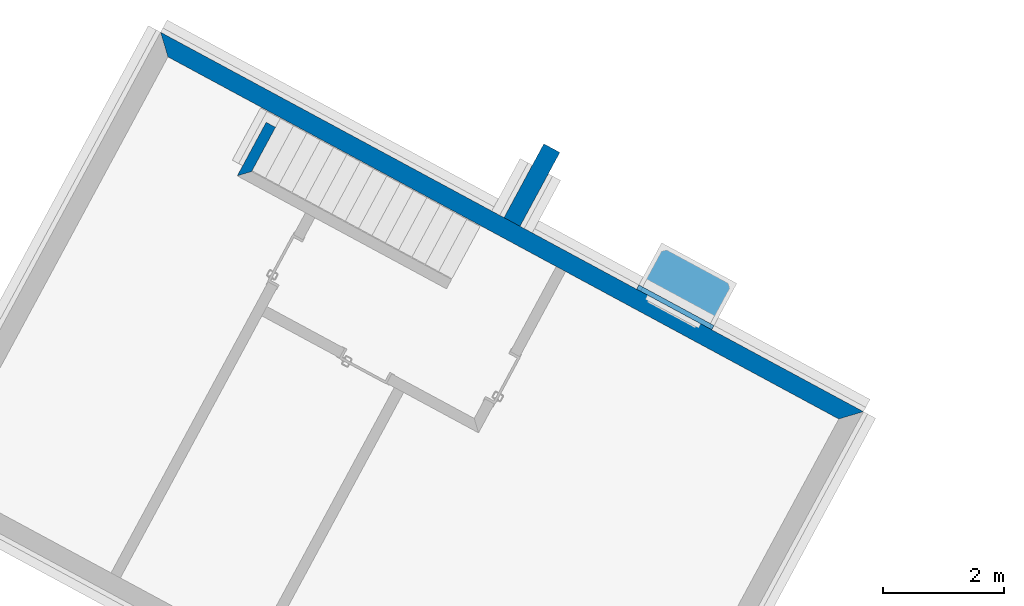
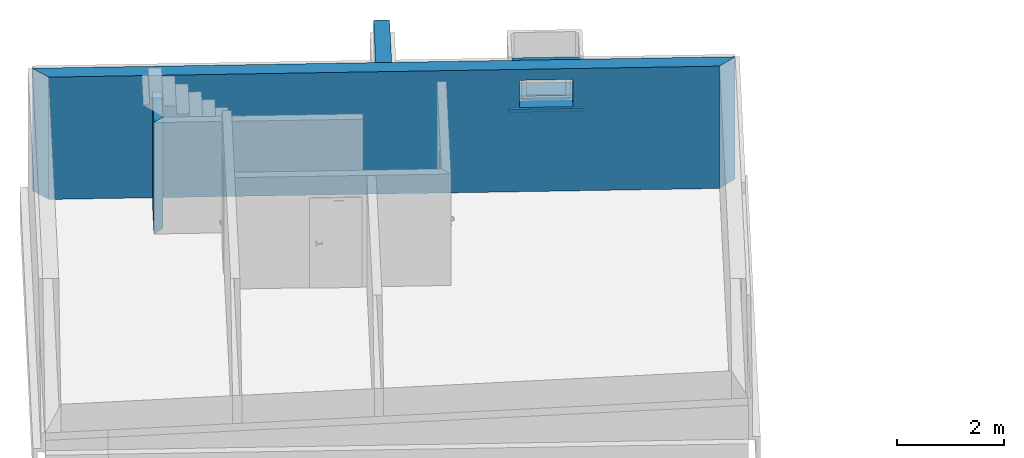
# One storey, part 5 of 8: 6 walls, 2 openings.
"""IFC2X3 building model written with IfcOpenShell, lengths in metres."""

from ifc_helpers import new_model, entity, si_unit, converted_unit, derived_unit, money_unit, direction, frame, origin_with_axes, origin_2d_with_axis, place, context, subcontext, project, spatial, polyline, rectangle, outline, extrude, material, layer, layer_set, layer_usage, type_object, element, save


model = new_model("IFC2X3")

# Units and contexts
model_context = context("Model", 3, precision=1e-05, world=origin_with_axes(), true_north=direction((0.0, 1.0)))
body_context = subcontext(model_context, "Body", "Model", "MODEL_VIEW")
ifc_project = project(units=[si_unit("LENGTHUNIT", "METRE"), si_unit("AREAUNIT", "SQUARE_METRE"), si_unit("VOLUMEUNIT", "CUBIC_METRE"), converted_unit("PLANEANGLEUNIT", "DEGREE", entity("IfcPlaneAngleMeasure", 0.0174532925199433), si_unit("PLANEANGLEUNIT", "RADIAN"), dimensions=[0, 0, 0, 0, 0, 0, 0]), money_unit("EUR"), converted_unit("TIMEUNIT", "Year", entity("IfcTimeMeasure", 31556926.0), si_unit("TIMEUNIT", "SECOND"), dimensions=[0, 0, 1, 0, 0, 0, 0]), si_unit("MASSUNIT", "GRAM", prefix="KILO"), si_unit("THERMODYNAMICTEMPERATUREUNIT", "DEGREE_CELSIUS"), si_unit("LUMINOUSINTENSITYUNIT", "LUMEN"), si_unit("ENERGYUNIT", "JOULE", prefix="MEGA"), derived_unit("THERMALCONDUCTANCEUNIT", [(si_unit("POWERUNIT", "WATT"), 1), (si_unit("LENGTHUNIT", "METRE"), -1), (si_unit("THERMODYNAMICTEMPERATUREUNIT", "KELVIN"), -1)]), derived_unit("SPECIFICHEATCAPACITYUNIT", [(si_unit("ENERGYUNIT", "JOULE"), 1), (si_unit("MASSUNIT", "GRAM", prefix="KILO"), -1), (si_unit("THERMODYNAMICTEMPERATUREUNIT", "KELVIN"), -1)]), derived_unit("MASSDENSITYUNIT", [(si_unit("MASSUNIT", "GRAM", prefix="KILO"), 1), (si_unit("VOLUMEUNIT", "CUBIC_METRE"), -1)])], contexts=[model_context])

# Site, building, storey
site_placement = place(None, frame((-3.949935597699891, 1.740105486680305, 0.0), z_axis=(0.0, 0.0, 1.0), x_axis=(0.8799804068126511, -0.475009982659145, 0.0)))
site = spatial("IfcSite", under=ifc_project, at=site_placement, Name="Gelände", CompositionType="ELEMENT")
building_placement = place(site_placement, origin_with_axes())
building = spatial("IfcBuilding", under=site, at=building_placement, Name="Gebäude", CompositionType="ELEMENT")
storey_placement = place(building_placement, frame((0.0, 0.0, -2.98), z_axis=(0.0, 0.0, 1.0), x_axis=(1.0, 0.0, 0.0)))
storey = spatial("IfcBuildingStorey", under=building, at=storey_placement, Name="Kellergeschoss", CompositionType="ELEMENT", Elevation=-2.98)

# Wall
ifc_material_1 = material(Name="_SIWH - MW Kalksandstein")
ifc_layer_1 = layer(ifc_material_1, 0.175, ventilated="UNKNOWN")
ifc_layer_set_1 = layer_set([ifc_layer_1], Name="_SIWH - WI | KS 17,5 | 17,5cm")
ifc_layer_usage_1 = layer_usage(ifc_layer_set_1, "AXIS2", "NEGATIVE", 0.175)
wall_type_1 = type_object("IfcWallType", Name="_SIWH - WI | KS 17,5 | 17,5cm 175", PredefinedType="NOTDEFINED")
wall_1_placement = place(storey_placement, frame((6.597401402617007, 17.89028332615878, 0.0), z_axis=(0.0, 0.0, 1.0), x_axis=(-5.374643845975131e-06, 0.9999999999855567, 0.0)))
element("IfcWallStandardCase", 1, at=wall_1_placement, inside=storey, type_object=wall_type_1, material=ifc_layer_usage_1, Name="I-Wand033", ObjectType="NOTDEFINED", context=body_context, shape_type="SweptSolid", body=[
    extrude(outline(polyline([(0.0, 0.0), (0.8300017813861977, 0.0), (0.8300019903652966, 0.1749999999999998), (-0.1749998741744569, 0.1749999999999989), (0.0, 0.0)])), origin_with_axes(), (0.0, 0.0, 1.0), 2.55),
])

# Wall, opening
ifc_material_2 = material(Name="_SIWH - Beton, Stahlbeton")
ifc_layer_2 = layer(ifc_material_2, 0.3, ventilated="UNKNOWN")
ifc_layer_set_2 = layer_set([ifc_layer_2], Name="_SIWH - WA | Stb. 30 | 30cm")
ifc_layer_usage_2 = layer_usage(ifc_layer_set_2, "AXIS2", "NEGATIVE", 0.0)
wall_type_2 = type_object("IfcWallType", Name="_SIWH - WA | Stb. 30 | 30cm 300", PredefinedType="NOTDEFINED")
wall_2_placement = place(storey_placement, frame((4.182481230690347, 19.2003203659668, 0.0), z_axis=(0.0, 0.0, 1.0), x_axis=(1.0, 0.0, 0.0)))
wall_2 = element("IfcWallStandardCase", 2, at=wall_2_placement, inside=storey, type_object=wall_type_2, material=ifc_layer_usage_2, Name="A-Wand039", ObjectType="NOTDEFINED", context=body_context, shape_type="SweptSolid", body=[
    extrude(outline(polyline([(0.3000018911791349, -0.3000000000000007), (12.88499724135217, -0.3000000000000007), (13.18499704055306, 0.0), (0.0, 0.0), (0.3000018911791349, -0.3000000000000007)])), origin_with_axes(), (0.0, 0.0, 1.0), 2.8),
])
opening_1_placement = place(wall_2_placement, frame((9.634995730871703, 0.0, 1.925), z_axis=(0.0, 0.0, 1.0), x_axis=(1.0, 0.0, 0.0)))
element("IfcOpeningElement", 3, at=opening_1_placement, cuts=wall_2, Name="Fenster-016", context=body_context, shape_type="SweptSolid", body=[
    extrude(rectangle(XDim=1.0, YDim=0.625, at=origin_2d_with_axis()), frame((0.0, -0.3000000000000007, 0.3125), z_axis=(0.0, -1.0, 0.0), x_axis=(1.0, 0.0, 0.0)), (0.0, 0.0, -1.0), 0.8999999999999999),
])

# Walls
ifc_layer_usage_3 = layer_usage(ifc_layer_set_2, "AXIS2", "NEGATIVE", 0.15)
wall_3_placement = place(storey_placement, frame((10.77500603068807, 19.2003203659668, 0.0), z_axis=(0.0, 0.0, 1.0), x_axis=(0.0, 1.0, 0.0)))
element("IfcWallStandardCase", 4, at=wall_3_placement, inside=storey, type_object=wall_type_2, material=ifc_layer_usage_3, Name="A-Wand024", ObjectType="NOTDEFINED", context=body_context, shape_type="SweptSolid", body=[
    extrude(outline(polyline([(0.0, -0.1500000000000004), (1.384955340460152, -0.1500000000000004), (1.384955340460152, 0.1500000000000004), (0.0, 0.1500000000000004), (0.0, -0.1500000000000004)])), origin_with_axes(), (0.0, 0.0, 1.0), 2.8),
])
ifc_material_3 = material(Name="_SIWH - Dämmung, hart Mineralwolle")
wall_type_3 = type_object("IfcWallType", Name="_SIWH - Dämmung, hart Mineralwolle 70", PredefinedType="ELEMENTEDWALL")
wall_4_placement = place(storey_placement, frame((13.11247696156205, 19.2003203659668, 1.675), z_axis=(0.0, 0.0, 1.0), x_axis=(1.0, 0.0, 0.0)))
element("IfcWall", 5, at=wall_4_placement, inside=storey, type_object=wall_type_3, material=ifc_material_3, Name="Decke024", ObjectType="ELEMENTEDWALL", context=body_context, shape_type="SweptSolid", body=[
    extrude(outline(polyline([(0.0, 0.0), (1.41, 0.0), (1.41, 0.08000000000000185), (-3.209472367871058e-07, 0.08000000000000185), (0.0, 0.0)])), frame((0.0, 0.0, -0.07), z_axis=(0.0, 0.0, 1.0), x_axis=(1.0, 0.0, 0.0)), (0.0, 0.0, 1.0), 0.07),
])
ifc_material_4 = material(Name="_SIWH - Beton, Stahlbeton Fertigteil")
wall_type_4 = type_object("IfcWallType", Name="_SIWH - Beton, Stahlbeton Fertigteil 70", PredefinedType="ELEMENTEDWALL")
wall_5_placement = place(storey_placement, frame((14.52247696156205, 19.2803203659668, 1.676548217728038), z_axis=(0.0, 0.0, 1.0), x_axis=(1.0, 0.0, 0.0)))
element("IfcWall", 6, at=wall_5_placement, inside=storey, type_object=wall_type_4, material=ifc_material_4, Name="Decke025", ObjectType="ELEMENTEDWALL", context=body_context, shape_type="SweptSolid", body=[
    extrude(outline(polyline([(0.0, 0.0), (0.0, 0.7899944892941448), (-1.410003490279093, 0.7899944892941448), (-1.410000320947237, 0.0), (0.0, 0.0)])), frame((0.0, 0.0, -0.07), z_axis=(0.0, 0.0, 1.0), x_axis=(1.0, 0.0, 0.0)), (0.0, 0.0, 1.0), 0.07),
])

# Wall, opening
ifc_material_5 = material(Name="_SIWH - Dämmung, Perimeterdämmung")
ifc_layer_3 = layer(ifc_material_5, 0.08, ventilated="UNKNOWN")
ifc_layer_set_3 = layer_set([ifc_layer_3], Name="_SIWH - WA | Perimeterdämmung 8 | 8cm")
ifc_layer_usage_4 = layer_usage(ifc_layer_set_3, "AXIS2", "POSITIVE", -0.08)
wall_type_5 = type_object("IfcWallType", Name="_SIWH - WA | Perimeterdämmung 8 | 8cm 80", PredefinedType="NOTDEFINED")
wall_6_placement = place(storey_placement, frame((14.45247696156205, 19.20034515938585, 1.675), z_axis=(0.0, 0.0, 1.0), x_axis=(-0.9999999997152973, -2.386221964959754e-05, 0.0)))
wall_6 = element("IfcWallStandardCase", 7, at=wall_6_placement, inside=storey, type_object=wall_type_5, material=ifc_layer_usage_4, Name="A-Wand029", ObjectType="NOTDEFINED", context=body_context, shape_type="SweptSolid", body=[
    extrude(outline(polyline([(-1.908977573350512e-06, -0.08000000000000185), (1.270000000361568, -0.08000000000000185), (1.270000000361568, 0.0), (-0.07000000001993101, 0.0), (-1.908977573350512e-06, -0.08000000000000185)])), origin_with_axes(), (0.0, 0.0, 1.0), 1.125),
])
opening_2_placement = place(wall_6_placement, frame((0.6350000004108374, 0.0, 0.25), z_axis=(0.0, 0.0, 1.0), x_axis=(1.0, 0.0, 0.0)))
element("IfcOpeningElement", 8, at=opening_2_placement, cuts=wall_6, Name="Tür-026", context=body_context, shape_type="SweptSolid", body=[
    extrude(rectangle(XDim=0.9999999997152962, YDim=0.625, at=origin_2d_with_axis()), frame((0.0, 0.08000000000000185, 0.3125), z_axis=(0.0, -1.0, 0.0), x_axis=(1.0, 0.0, 0.0)), (0.0, 0.0, 1.0), 0.24),
])

save(model, "model.ifc")
